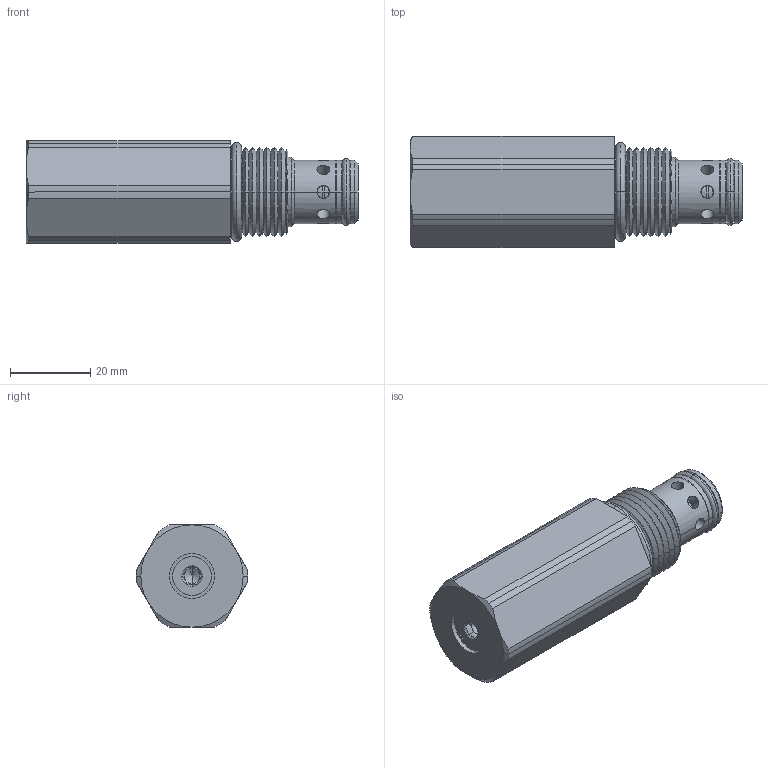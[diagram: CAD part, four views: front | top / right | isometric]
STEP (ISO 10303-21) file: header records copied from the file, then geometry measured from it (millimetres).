
FILE_DESCRIPTION((''),'2;1');
FILE_NAME('U:\Solid model CD\Solid model full\Mechanical\STEP\DEPSD0I-3D Full.stp','2008-07-28T16:12:52',('Dan'),(''),'Autodesk Inventor 9','Autodesk Inventor 9','');
FILE_SCHEMA(('AUTOMOTIVE_DESIGN { 1 0 10303 214 1 1 1 1 }'));
Length unit declared in the file: inch
Products named in the file (5): DEPSD0I-3D Full; DEPSD0I-3D Full1; DEPSD0I-3D Full2; DEPSD0I-3D Full3; DEPSD0I-3D Full4
Assembly tree (4 placements, depth 2):
  DEPSD0I-3D Full
    DEPSD0I-3D Full1
    DEPSD0I-3D Full2
    DEPSD0I-3D Full3
    DEPSD0I-3D Full4
Bounding box: 82.5 x 27.69 x 25.4 mm (x, y, z)
Volume: 35961.7 mm3; surface area: 9551.7 mm2
Topology: 4 solids, 4 shells, 159 faces, 383 edges, 240 vertices
Faces by surface type: cylinder 64, cone 46, plane 31, bspline 14, torus 4
Entity records: 5636 total; most frequent: CARTESIAN_POINT 1815, DIRECTION 798, ORIENTED_EDGE 762, EDGE_CURVE 381, AXIS2_PLACEMENT_3D 331, VERTEX_POINT 240, EDGE_LOOP 191, CIRCLE 177
